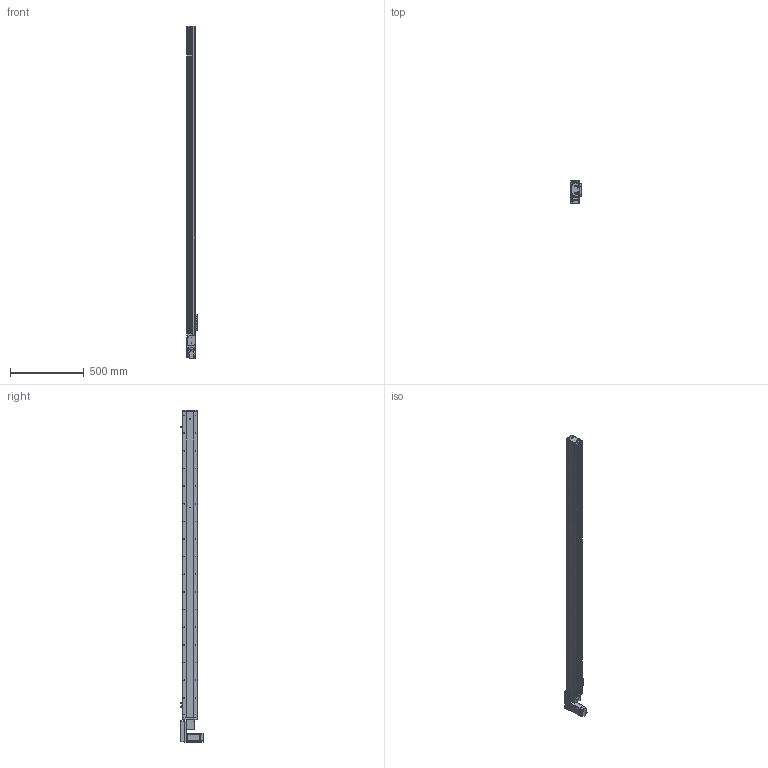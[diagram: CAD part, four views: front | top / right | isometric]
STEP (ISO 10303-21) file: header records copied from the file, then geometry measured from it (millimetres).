
FILE_DESCRIPTION (( 'STEP AP214' ), '1' );
FILE_NAME ('KSD100B-S1900-MLB-CR.STEP', '2019-09-06T09:28:20', ( '微软用户' ), ( '微软中国' ), 'SwSTEP 2.0', 'SolidWorks 2014', '' );
FILE_SCHEMA (( 'AUTOMOTIVE_DESIGN' ));
Length unit declared in the file: millimetre
Products named in the file (15): 100宽马达安装板连板上下折丝杆同步带; 悵誘欶奻狟殏; 感应片100宽全封闭; U倰嫖萇EEㄜSX672; MHMD042G1CA_2_03; 100宽马达安装板同步带左; 100遵鎮湛假蚾啣蜊; 100宽端板同步带全封闭; 100宽滚珠螺姆安装板1防护罩; 100宽滚珠螺姆安装板1; 100遵裔啣揤啣; 100遵裔啣1900俴最; 100宽侧板1900行程同步带; 100宽底板全封闭1900行程同步带; KSD100B-S1900-MLB-CR
Assembly tree (18 placements, depth 2):
  KSD100B-S1900-MLB-CR
    100宽底板全封闭1900行程同步带
    100宽侧板1900行程同步带  x2
    100遵裔啣1900俴最
    100遵裔啣揤啣  x2
    100宽滚珠螺姆安装板1
    100宽滚珠螺姆安装板1防护罩
    100宽端板同步带全封闭
    100遵鎮湛假蚾啣蜊
    100宽马达安装板同步带左
    U倰嫖萇EEㄜSX672  x3
    感应片100宽全封闭
    100宽马达安装板连板上下折丝杆同步带
    悵誘欶奻狟殏
    MHMD042G1CA_2_03
Bounding box: 70 x 156.2 x 2257 mm (x, y, z)
Volume: 4107400.6 mm3; surface area: 1784025.3 mm2
Topology: 17 solids, 18 shells, 2049 faces, 5744 edges, 3611 vertices
Faces by surface type: cylinder 941, plane 741, cone 347, bspline 20
Entity records: 73136 total; most frequent: CARTESIAN_POINT 11416, DIRECTION 10034, ORIENTED_EDGE 9188, EDGE_CURVE 4666, AXIS2_PLACEMENT_3D 3687, VERTEX_POINT 3089, VECTOR 2660, LINE 2660
